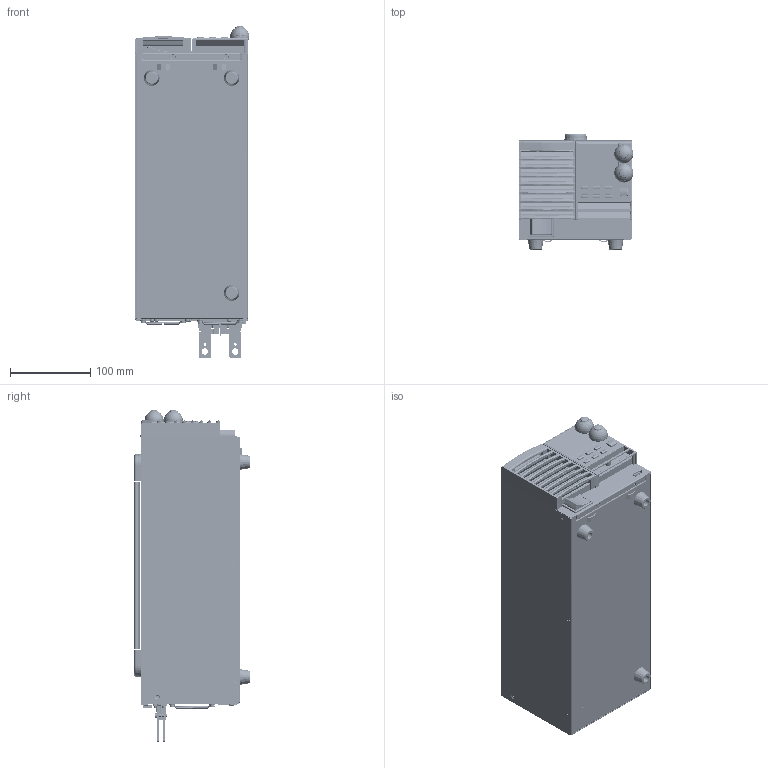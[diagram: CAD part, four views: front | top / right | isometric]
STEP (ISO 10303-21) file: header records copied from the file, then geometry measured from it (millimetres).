
FILE_DESCRIPTION((''),'2;1');
FILE_NAME('2260B-30-72','2024-05-28T10:01:20',('u603758'),(''),'CREO PARAMETRIC BY PTC INC, 2022284','CREO PARAMETRIC BY PTC INC, 2022284','');
FILE_SCHEMA(('CONFIG_CONTROL_DESIGN','SHAPE_APPEARANCE_LAYERS_GROUPS'));
Products named in the file (1): 2260B-30-72
Bounding box: 142.77 x 144.2 x 413.8 mm (x, y, z)
Volume: 607811.8 mm3; surface area: 807467.1 mm2
Topology: 22 solids, 91 shells, 15768 faces, 41065 edges, 26185 vertices
Faces by surface type: plane 10463, cylinder 3166, cone 936, bspline 763, sphere 200, torus 198, revolution 40, extrusion 2
Entity records: 524022 total; most frequent: CARTESIAN_POINT 138399, ORIENTED_EDGE 81376, DIRECTION 76585, EDGE_CURVE 40688, VECTOR 28555, LINE 28553, VERTEX_POINT 26183, AXIS2_PLACEMENT_3D 23995
